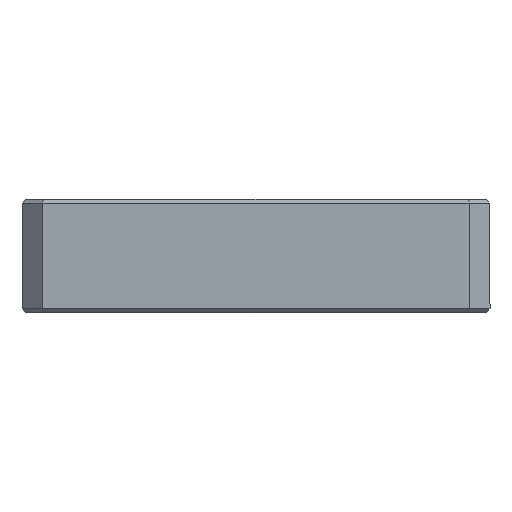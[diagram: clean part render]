
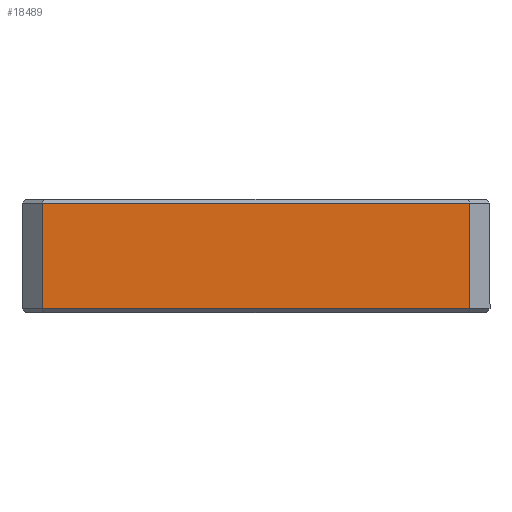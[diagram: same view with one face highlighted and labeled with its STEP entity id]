
A CAD part, left-side view. The second image highlights one B-rep face of the part: STEP entity #18489.
In plain terms, the highlighted planar face has unit normal (-1, 0, 0).
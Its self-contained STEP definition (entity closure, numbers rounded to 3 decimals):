
#659 = CARTESIAN_POINT ( 'NONE',  ( -47.565, 45.925, 127.7 ) ) ;
#1073 = DIRECTION ( 'NONE',  ( 0., 0., 1. ) ) ;
#3376 = CARTESIAN_POINT ( 'NONE',  ( -47.565, -48.575, 127.7 ) ) ;
#4503 = DIRECTION ( 'NONE',  ( 0., 0., 1. ) ) ;
#5123 = DIRECTION ( 'NONE',  ( 0., 0., 1. ) ) ;
#6198 = VERTEX_POINT ( 'NONE', #32421 ) ;
#6345 = VECTOR ( 'NONE', #1073, 1000. ) ;
#6974 = VECTOR ( 'NONE', #4503, 1000. ) ;
#7778 = CARTESIAN_POINT ( 'NONE',  ( -47.565, 45.925, 103.5 ) ) ;
#8301 = LINE ( 'NONE', #659, #24250 ) ;
#11725 = ORIENTED_EDGE ( 'NONE', *, *, #36638, .F. ) ;
#13043 = AXIS2_PLACEMENT_3D ( 'NONE', #27353, #32865, #5123 ) ;
#14903 = ORIENTED_EDGE ( 'NONE', *, *, #22917, .T. ) ;
#15265 = ORIENTED_EDGE ( 'NONE', *, *, #32653, .T. ) ;
#16525 = LINE ( 'NONE', #29274, #6345 ) ;
#16714 = EDGE_LOOP ( 'NONE', ( #16863, #14903, #11725, #15265 ) ) ;
#16863 = ORIENTED_EDGE ( 'NONE', *, *, #20534, .T. ) ;
#17833 = CARTESIAN_POINT ( 'NONE',  ( -47.565, 45.925, 104.3 ) ) ;
#18489 = ADVANCED_FACE ( 'NONE', ( #38988 ), #20820, .F. ) ;
#20534 = EDGE_CURVE ( 'NONE', #6198, #37721, #16525, .T. ) ;
#20820 = PLANE ( 'NONE',  #13043 ) ;
#22917 = EDGE_CURVE ( 'NONE', #37721, #27837, #8301, .T. ) ;
#24139 = CARTESIAN_POINT ( 'NONE',  ( -47.565, 45.925, 127.7 ) ) ;
#24250 = VECTOR ( 'NONE', #37475, 1000. ) ;
#26178 = LINE ( 'NONE', #34978, #39707 ) ;
#27318 = VERTEX_POINT ( 'NONE', #17833 ) ;
#27353 = CARTESIAN_POINT ( 'NONE',  ( -47.565, 45.925, 103.5 ) ) ;
#27837 = VERTEX_POINT ( 'NONE', #24139 ) ;
#29274 = CARTESIAN_POINT ( 'NONE',  ( -47.565, -48.575, 103.5 ) ) ;
#32421 = CARTESIAN_POINT ( 'NONE',  ( -47.565, -48.575, 104.3 ) ) ;
#32653 = EDGE_CURVE ( 'NONE', #27318, #6198, #26178, .T. ) ;
#32865 = DIRECTION ( 'NONE',  ( 1., 0., 0. ) ) ;
#34577 = DIRECTION ( 'NONE',  ( 0., -1., 0. ) ) ;
#34978 = CARTESIAN_POINT ( 'NONE',  ( -47.565, 45.925, 104.3 ) ) ;
#35536 = LINE ( 'NONE', #7778, #6974 ) ;
#36638 = EDGE_CURVE ( 'NONE', #27318, #27837, #35536, .T. ) ;
#37475 = DIRECTION ( 'NONE',  ( 0., 1., 0. ) ) ;
#37721 = VERTEX_POINT ( 'NONE', #3376 ) ;
#38988 = FACE_OUTER_BOUND ( 'NONE', #16714, .T. ) ;
#39707 = VECTOR ( 'NONE', #34577, 1000. ) ;
